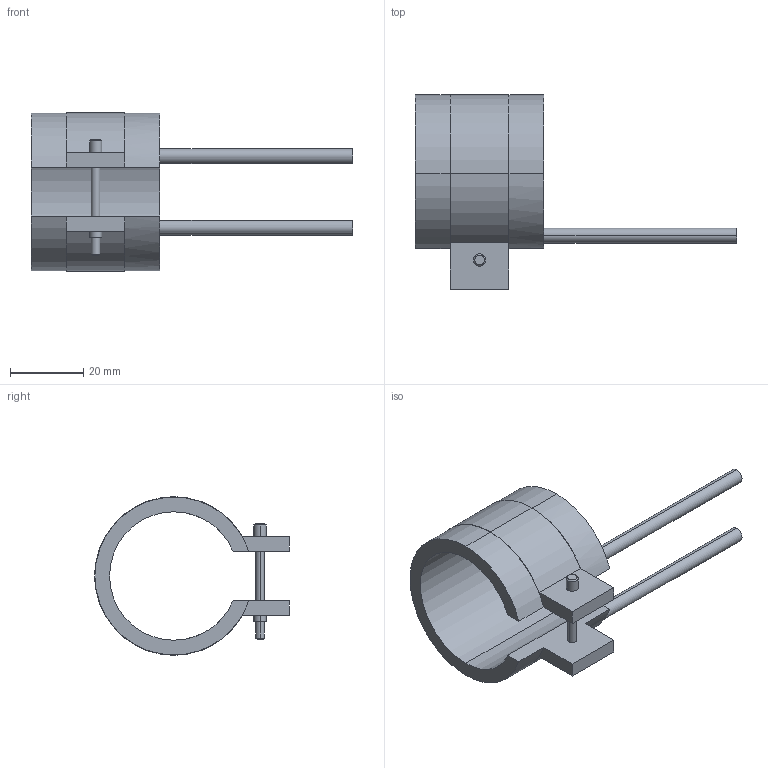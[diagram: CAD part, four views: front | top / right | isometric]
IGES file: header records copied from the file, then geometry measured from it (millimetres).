
Start section: START RECORD GO HERE.
Global section: file name: 14035035.igs; native system: DASSAULT SYSTEMES CATIA V5 R20 - www.3ds.com; preprocessor: CATIA Version 5 Release 20 ; author: Utente; organization: NB04-ASUS; date: 20210331.133713; units: millimetre
Bounding box: 87.5 x 53.1 x 43.2 mm (x, y, z)
Surface area: 11249.1 mm2 (no closed solid volume)
Topology: 0 solids, 0 shells, 45 faces, 232 edges, 232 vertices
Faces by surface type: revolution 28, plane 17
